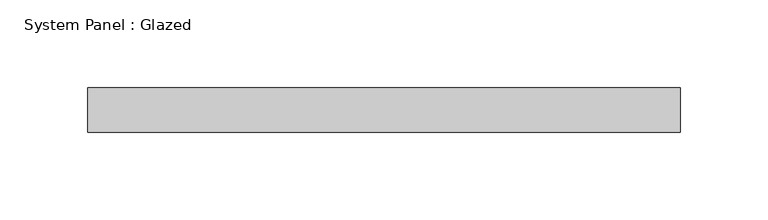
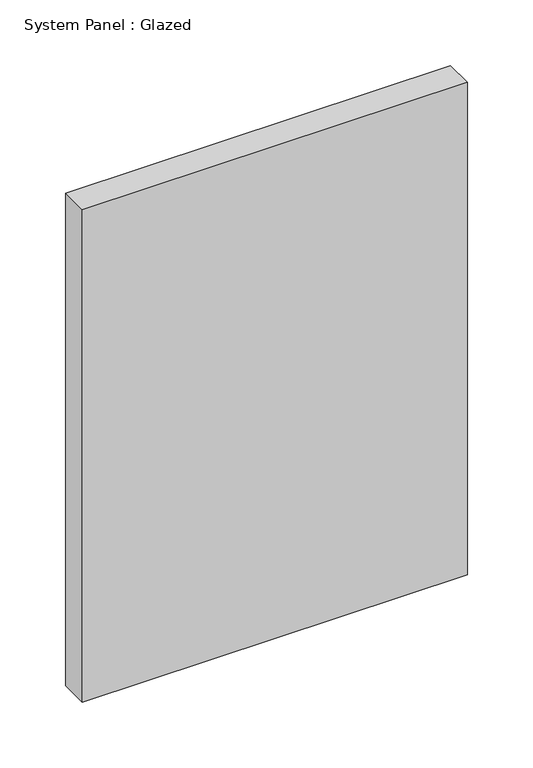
"""IFC4 building model written with IfcOpenShell, lengths in millimetres: plate geometry, System Panel : Glazed."""

import ifcopenshell
import ifcopenshell.guid

model = None  # the IFC model being written
_history = None  # IfcOwnerHistory: only IFC2X3 demands one
_inside = {}  # id of a spatial element -> (the spatial element, [elements in it])
_under = {}  # id of a project, library or spatial element -> (it, [spatial elements below it])
_declared = {}  # id of a project -> (the project, [libraries it declares])
_typed = {}  # id of a type object -> (the type object, [elements of that type])
_made_of = {}  # id of a material, layer set ... -> (it, [elements and type objects made of it])


def new_model(schema):
    """Start an empty IFC model of exactly this schema.

    Asked for "IFC4X3", IfcOpenShell would pick the latest addendum, in which some entities
    have other attributes; the version numbers below select the first issue.
    IFC2X3 requires an IfcOwnerHistory on every rooted entity: one is made here for all.
    """
    global model, _history
    if schema == "IFC4X3":
        model = ifcopenshell.file(schema_version=(4, 3, 0, 0))
    else:
        model = ifcopenshell.file(schema=schema)
    _inside.clear()
    _under.clear()
    _declared.clear()
    _typed.clear()
    _made_of.clear()
    _history = None
    if model.schema == "IFC2X3":
        org = make("IfcOrganization", Name="unknown")
        user = make(
            "IfcPersonAndOrganization",
            ThePerson=make("IfcPerson", FamilyName="unknown"),
            TheOrganization=org,
        )
        app = make(
            "IfcApplication",
            ApplicationDeveloper=org,
            Version="unknown",
            ApplicationFullName="unknown",
            ApplicationIdentifier="unknown",
        )
        _history = make(
            "IfcOwnerHistory",
            OwningUser=user,
            OwningApplication=app,
            ChangeAction="ADDED",
            CreationDate=0,
        )
    return model


def make(cls, **values):
    """One entity of the class cls with the attributes given. An attribute that is None is left unset."""
    return model.create_entity(
        cls, **{name: value for name, value in values.items() if value is not None}
    )


def rooted(cls, **values):
    """An entity with a GlobalId (a new one), such as an element, a storey or a relation."""
    return make(cls, GlobalId=ifcopenshell.guid.new(), OwnerHistory=_history, **values)


def si_unit(unit_type, name, prefix=None):
    """IfcSIUnit, for example si_unit("LENGTHUNIT", "METRE", prefix="MILLI")."""
    return make("IfcSIUnit", UnitType=unit_type, Prefix=prefix, Name=name)


def assignment(units):
    """IfcUnitAssignment: the units of a project."""
    return None if units is None else make("IfcUnitAssignment", Units=units)


def point(xyz):
    """IfcCartesianPoint."""
    return None if xyz is None else make("IfcCartesianPoint", Coordinates=xyz)


def direction(xyz):
    """IfcDirection."""
    return None if xyz is None else make("IfcDirection", DirectionRatios=xyz)


def frame(location, z_axis=None, x_axis=None):
    """IfcAxis2Placement3D, a coordinate frame: its origin and axes. An axis left out is left unset."""
    return make(
        "IfcAxis2Placement3D",
        Location=point(location),
        Axis=direction(z_axis),
        RefDirection=direction(x_axis),
    )


def origin():
    """The frame at (0, 0, 0) with its axes left unset."""
    return frame((0.0, 0.0, 0.0))


def origin_with_axes():
    """The frame at (0, 0, 0) with the z axis (0, 0, 1) and the x axis (1, 0, 0) written out."""
    return frame((0.0, 0.0, 0.0), z_axis=(0.0, 0.0, 1.0), x_axis=(1.0, 0.0, 0.0))


def place(relative_to, where):
    """IfcLocalPlacement: puts the frame where relative to a parent placement (None: the world)."""
    return make(
        "IfcLocalPlacement", PlacementRelTo=relative_to, RelativePlacement=where
    )


def context(
    kind, dimensions, precision=None, world=None, true_north=None, identifier=None
):
    """IfcGeometricRepresentationContext, for example the 3D "Model" context."""
    return make(
        "IfcGeometricRepresentationContext",
        ContextIdentifier=identifier,
        ContextType=kind,
        CoordinateSpaceDimension=dimensions,
        Precision=precision,
        WorldCoordinateSystem=world,
        TrueNorth=true_north,
    )


def project(units=None, contexts=None):
    """IfcProject with its units and contexts."""
    return rooted(
        "IfcProject",
        Name="project",
        RepresentationContexts=contexts,
        UnitsInContext=assignment(units),
    )


def spatial(cls, under=None, at=None, **own):
    """A site, building, storey or space (cls), placed at a placement, below another one or the project."""
    s = rooted(cls, ObjectPlacement=at, **own)
    if under is not None:
        _under.setdefault(under.id(), (under, []))[1].append(s)
    return s


def polyline(points):
    """IfcPolyline through the points."""
    return make("IfcPolyline", Points=[point(p) for p in points])


def outline(outer, holes=None, kind="AREA"):
    """IfcArbitraryClosedProfileDef: a profile drawn as a closed curve; with holes, ...WithVoids."""
    if holes is None:
        return make("IfcArbitraryClosedProfileDef", ProfileType=kind, OuterCurve=outer)
    return make(
        "IfcArbitraryProfileDefWithVoids",
        ProfileType=kind,
        OuterCurve=outer,
        InnerCurves=holes,
    )


def extrude(swept, where, along, depth):
    """IfcExtrudedAreaSolid: the profile swept, set in the frame where, extruded along a direction by depth."""
    return make(
        "IfcExtrudedAreaSolid",
        SweptArea=swept,
        Position=where,
        ExtrudedDirection=direction(along),
        Depth=depth,
    )


def shape(context_of_items, identifier, shape_type, items):
    """IfcShapeRepresentation: the items that make up one representation, for example the "Body"."""
    return make(
        "IfcShapeRepresentation",
        ContextOfItems=context_of_items,
        RepresentationIdentifier=identifier,
        RepresentationType=shape_type,
        Items=items,
    )


def source(mapping_origin, context_of_items, identifier, shape_type, items):
    """IfcRepresentationMap: a shape defined once, which mapped items show again and again."""
    return make(
        "IfcRepresentationMap",
        MappingOrigin=mapping_origin,
        MappedRepresentation=shape(context_of_items, identifier, shape_type, items),
    )


def transform(
    local_origin,
    x_axis=None,
    y_axis=None,
    z_axis=None,
    scale=None,
    scale2=None,
    scale3=None,
    uniform=True,
):
    """IfcCartesianTransformationOperator3D, or its non-uniform kind. x_axis, y_axis, z_axis: its Axis1, 2, 3."""
    if uniform:
        return make(
            "IfcCartesianTransformationOperator3D",
            Axis1=direction(x_axis),
            Axis2=direction(y_axis),
            LocalOrigin=point(local_origin),
            Scale=scale,
            Axis3=direction(z_axis),
        )
    return make(
        "IfcCartesianTransformationOperator3DnonUniform",
        Axis1=direction(x_axis),
        Axis2=direction(y_axis),
        LocalOrigin=point(local_origin),
        Scale=scale,
        Axis3=direction(z_axis),
        Scale2=scale2,
        Scale3=scale3,
    )


def mapped(mapping_source, mapping_target):
    """IfcMappedItem: shows the shape of a source again, moved by a transform."""
    return make(
        "IfcMappedItem", MappingSource=mapping_source, MappingTarget=mapping_target
    )


def made_of(thing, what):
    """Note that an element or type object is made of a material, layer set ...; save() writes the relation."""
    if what is not None:
        _made_of.setdefault(what.id(), (what, []))[1].append(thing)
    return thing


def element(
    cls,
    number,
    at=None,
    inside=None,
    cuts=None,
    type_object=None,
    material=None,
    context=None,
    identifier="Body",
    shape_type=None,
    held_by="IfcProductDefinitionShape",
    body=None,
    shapes=None,
    **own,
):
    """One element of the class cls, such as IfcWall. Its Tag is "e" and its number.

    at: its placement. inside: the storey or other place that contains it. cuts: it is an
    opening in that element (IfcRelVoidsElement). A single representation is given by context,
    identifier, shape_type and body (its items); several are given by shapes. held_by: the class
    of the entity that holds the representations. save() writes the other relations.
    """
    e = rooted(cls, Tag="e%d" % number, ObjectPlacement=at, **own)
    if body is not None:
        shapes = [shape(context, identifier, shape_type, body)]
    if shapes is not None:
        e.Representation = make(held_by, Representations=shapes)
    if inside is not None:
        _inside.setdefault(inside.id(), (inside, []))[1].append(e)
    if cuts is not None:
        rooted(
            "IfcRelVoidsElement", RelatingBuildingElement=cuts, RelatedOpeningElement=e
        )
    if type_object is not None:
        _typed.setdefault(type_object.id(), (type_object, []))[1].append(e)
    return made_of(e, material)


def aggregate(whole, parts):
    """IfcRelAggregates: a whole, such as a stair, and the parts it consists of."""
    return rooted("IfcRelAggregates", RelatingObject=whole, RelatedObjects=parts)


def save(model, path):
    """Write the relations noted so far, then the file.

    IfcRelAggregates (storeys below a building ...), IfcRelContainedInSpatialStructure (elements
    in a storey), IfcRelDefinesByType, IfcRelAssociatesMaterial and IfcRelDeclares: one each for
    every whole, place, type object, material and project.
    """
    for whole, parts in _under.values():
        aggregate(whole, parts)
    for where, things in _inside.values():
        rooted(
            "IfcRelContainedInSpatialStructure",
            RelatedElements=things,
            RelatingStructure=where,
        )
    for kind, things in _typed.values():
        rooted("IfcRelDefinesByType", RelatedObjects=things, RelatingType=kind)
    for what, things in _made_of.values():
        rooted("IfcRelAssociatesMaterial", RelatedObjects=things, RelatingMaterial=what)
    for by, libraries in _declared.values():
        rooted("IfcRelDeclares", RelatingContext=by, RelatedDefinitions=libraries)
    model.write(path)


def system_panel_glazed_331c9a5d(model_context):
    return source(origin(), model_context, "Body", "SweptSolid", [
        extrude(outline(polyline([(169.1685437, -44.45), (-169.1685437, -44.45), (-169.1685437, -19.05), (169.1685437, -19.05), (169.1685437, -44.45)])), origin_with_axes(), (0.0, 0.0, 1.0), 457.2),
    ])


if __name__ == "__main__":
    model = new_model("IFC4")
    model_context = context("Model", 3, world=origin())
    ifc_project = project(units=[si_unit("LENGTHUNIT", "METRE", prefix="MILLI")], contexts=[model_context])
    site = spatial("IfcSite", under=ifc_project)
    building = spatial("IfcBuilding", under=site)
    placement = place(None, origin())
    system_panel_glazed_shape = system_panel_glazed_331c9a5d(model_context)
    element("IfcPlate", 1, ObjectType="System Panel : Glazed", at=placement, inside=building, context=model_context, shape_type="MappedRepresentation", body=[
        mapped(system_panel_glazed_shape, transform((0.0, 0.0, 0.0), x_axis=(1.0, 0.0, 0.0), y_axis=(0.0, 1.0, 0.0), z_axis=(0.0, 0.0, 1.0))),
    ])
    save(model, "model.ifc")
